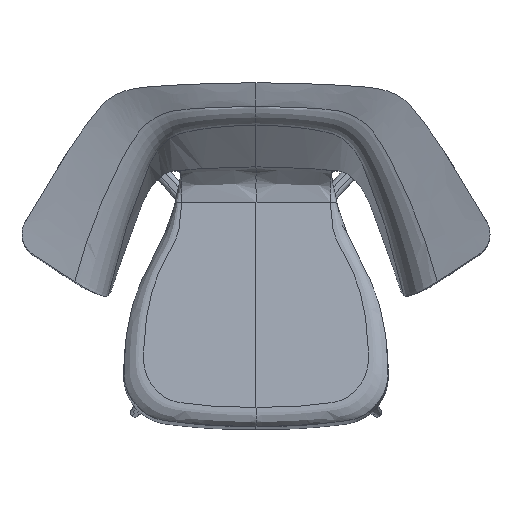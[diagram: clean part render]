
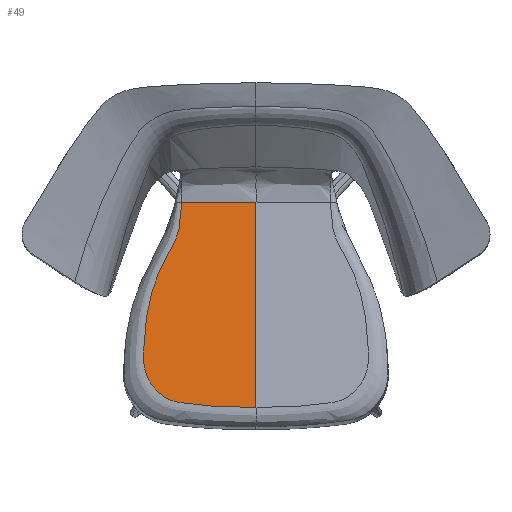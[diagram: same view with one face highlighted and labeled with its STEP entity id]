
A CAD part, top view. The second image highlights one B-rep face of the part: STEP entity #49.
In plain terms, the highlighted planar face has unit normal (0, 0.101, 0.995).
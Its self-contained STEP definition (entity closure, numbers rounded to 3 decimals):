
#49=ADVANCED_FACE('',(#241),#2789,.T.);
#241=FACE_OUTER_BOUND('',#433,.T.);
#433=EDGE_LOOP('',(#715,#716,#717));
#715=ORIENTED_EDGE('',*,*,#1607,.T.);
#716=ORIENTED_EDGE('',*,*,#1610,.F.);
#717=ORIENTED_EDGE('',*,*,#1606,.T.);
#1606=EDGE_CURVE('',#2522,#2529,#2093,.T.);
#1607=EDGE_CURVE('',#2529,#2530,#2094,.T.);
#1610=EDGE_CURVE('',#2522,#2530,#2023,.T.);
#2023=(
BOUNDED_CURVE()
B_SPLINE_CURVE(3,(#21086,#21087,#21088,#21089),.UNSPECIFIED.,.F.,.F.)
B_SPLINE_CURVE_WITH_KNOTS((4,4),(13.945,165.402),
 .UNSPECIFIED.)
CURVE()
GEOMETRIC_REPRESENTATION_ITEM()
RATIONAL_B_SPLINE_CURVE((1.,1.,1.,1.))
REPRESENTATION_ITEM('')
);
#2093=B_SPLINE_CURVE_WITH_KNOTS('',3,(#20973,#20974,#20975,#20976,#20977,
#20978,#20979,#20980,#20981,#20982,#20983,#20984,#20985,#20986,#20987,#20988,
#20989,#20990,#20991,#20992,#20993,#20994,#20995,#20996,#20997,#20998,#20999,
#21000,#21001,#21002,#21003,#21004,#21005,#21006,#21007,#21008,#21009,#21010,
#21011,#21012,#21013,#21014,#21015,#21016,#21017,#21018,#21019,#21020,#21021,
#21022,#21023,#21024,#21025,#21026,#21027,#21028,#21029,#21030,#21031,#21032,
#21033,#21034,#21035,#21036,#21037),.UNSPECIFIED.,.F.,.F.,(4,1,1,1,1,1,
1,1,1,1,1,1,1,1,1,1,1,1,1,1,1,1,1,1,1,1,1,1,1,1,1,1,1,1,1,1,1,1,1,1,1,1,
1,1,1,1,1,1,1,1,1,1,1,1,1,1,1,1,1,1,1,1,4),(-654.011,-651.192,
-648.373,-642.735,-631.459,-620.183,
-608.907,-597.631,-586.355,-575.079,
-563.803,-552.527,-541.251,-529.975,
-518.699,-507.423,-496.147,-484.87,-473.594,
-462.318,-451.042,-439.766,-428.49,
-417.214,-405.938,-394.662,-383.386,
-372.11,-360.834,-349.558,-338.282,
-327.006,-315.73,-304.454,-293.178,
-281.901,-270.625,-259.349,-248.073,-236.797,
-225.521,-214.245,-202.969,-191.693,
-180.417,-169.141,-157.865,-146.589,
-135.313,-124.037,-112.761,-101.485,
-90.208,-78.932,-67.656,-56.38,
-45.104,-33.828,-22.552,-11.276,
-5.638,-2.819,0.),.UNSPECIFIED.);
#2094=B_SPLINE_CURVE_WITH_KNOTS('',3,(#21038,#21039,#21040,#21041),
 .UNSPECIFIED.,.F.,.F.,(4,4),(36.762,457.349),
 .UNSPECIFIED.);
#2522=VERTEX_POINT('',#19187);
#2529=VERTEX_POINT('',#19194);
#2530=VERTEX_POINT('',#19195);
#2789=PLANE('',#3057);
#3057=AXIS2_PLACEMENT_3D('',#10140,#3114,$);
#3114=DIRECTION('',(0.,0.101,0.995));
#10140=CARTESIAN_POINT('',(207.531,463.095,363.537));
#19187=CARTESIAN_POINT('',(325.954,463.095,363.537));
#19194=CARTESIAN_POINT('',(477.411,44.642,405.815));
#19195=CARTESIAN_POINT('',(477.411,463.095,363.537));
#20973=CARTESIAN_POINT('',(325.954,463.095,363.537));
#20974=CARTESIAN_POINT('',(325.92,462.211,363.626));
#20975=CARTESIAN_POINT('',(325.85,460.44,363.805));
#20976=CARTESIAN_POINT('',(325.69,456.896,364.163));
#20977=CARTESIAN_POINT('',(325.366,450.711,364.788));
#20978=CARTESIAN_POINT('',(324.776,442.056,365.663));
#20979=CARTESIAN_POINT('',(323.794,431.312,366.748));
#20980=CARTESIAN_POINT('',(322.519,420.886,367.801));
#20981=CARTESIAN_POINT('',(320.826,410.488,368.852));
#20982=CARTESIAN_POINT('',(318.378,400.064,369.905));
#20983=CARTESIAN_POINT('',(314.945,390.09,370.913));
#20984=CARTESIAN_POINT('',(310.525,380.407,371.891));
#20985=CARTESIAN_POINT('',(305.64,371.166,372.825));
#20986=CARTESIAN_POINT('',(300.438,361.855,373.766));
#20987=CARTESIAN_POINT('',(295.209,352.674,374.693));
#20988=CARTESIAN_POINT('',(289.941,343.359,375.634));
#20989=CARTESIAN_POINT('',(284.958,334.002,376.58));
#20990=CARTESIAN_POINT('',(280.735,324.373,377.552));
#20991=CARTESIAN_POINT('',(276.779,314.529,378.547));
#20992=CARTESIAN_POINT('',(273.036,304.584,379.552));
#20993=CARTESIAN_POINT('',(269.591,294.527,380.568));
#20994=CARTESIAN_POINT('',(266.483,284.503,381.581));
#20995=CARTESIAN_POINT('',(263.636,274.314,382.61));
#20996=CARTESIAN_POINT('',(261.069,264.058,383.646));
#20997=CARTESIAN_POINT('',(258.757,253.699,384.693));
#20998=CARTESIAN_POINT('',(256.69,243.224,385.751));
#20999=CARTESIAN_POINT('',(254.89,232.844,386.8));
#21000=CARTESIAN_POINT('',(253.311,222.367,387.858));
#21001=CARTESIAN_POINT('',(251.957,211.883,388.918));
#21002=CARTESIAN_POINT('',(250.803,201.272,389.99));
#21003=CARTESIAN_POINT('',(249.874,190.906,391.037));
#21004=CARTESIAN_POINT('',(249.119,180.326,392.106));
#21005=CARTESIAN_POINT('',(248.548,169.752,393.174));
#21006=CARTESIAN_POINT('',(248.165,159.118,394.249));
#21007=CARTESIAN_POINT('',(247.896,148.514,395.32));
#21008=CARTESIAN_POINT('',(247.998,138.004,396.382));
#21009=CARTESIAN_POINT('',(249.43,127.378,397.456));
#21010=CARTESIAN_POINT('',(251.934,117.077,398.496));
#21011=CARTESIAN_POINT('',(255.506,107.193,399.495));
#21012=CARTESIAN_POINT('',(260.249,97.581,400.466));
#21013=CARTESIAN_POINT('',(265.901,88.777,401.356));
#21014=CARTESIAN_POINT('',(272.764,80.42,402.2));
#21015=CARTESIAN_POINT('',(280.314,73.197,402.93));
#21016=CARTESIAN_POINT('',(288.931,66.753,403.581));
#21017=CARTESIAN_POINT('',(298.211,61.524,404.109));
#21018=CARTESIAN_POINT('',(308.031,57.538,404.512));
#21019=CARTESIAN_POINT('',(318.394,54.883,404.78));
#21020=CARTESIAN_POINT('',(328.877,53.571,404.913));
#21021=CARTESIAN_POINT('',(339.475,52.115,405.06));
#21022=CARTESIAN_POINT('',(349.999,50.836,405.189));
#21023=CARTESIAN_POINT('',(360.526,49.647,405.309));
#21024=CARTESIAN_POINT('',(371.195,48.561,405.419));
#21025=CARTESIAN_POINT('',(381.789,47.597,405.516));
#21026=CARTESIAN_POINT('',(392.436,46.749,405.602));
#21027=CARTESIAN_POINT('',(402.897,46.027,405.675));
#21028=CARTESIAN_POINT('',(413.687,45.432,405.735));
#21029=CARTESIAN_POINT('',(424.156,44.892,405.789));
#21030=CARTESIAN_POINT('',(434.949,44.713,405.807));
#21031=CARTESIAN_POINT('',(445.505,44.685,405.81));
#21032=CARTESIAN_POINT('',(456.111,44.643,405.815));
#21033=CARTESIAN_POINT('',(464.973,44.633,405.816));
#21034=CARTESIAN_POINT('',(471.191,44.634,405.815));
#21035=CARTESIAN_POINT('',(474.746,44.638,405.815));
#21036=CARTESIAN_POINT('',(476.523,44.64,405.815));
#21037=CARTESIAN_POINT('',(477.411,44.642,405.815));
#21038=CARTESIAN_POINT('',(477.411,44.642,405.815));
#21039=CARTESIAN_POINT('',(477.411,184.126,391.722));
#21040=CARTESIAN_POINT('',(477.411,323.61,377.63));
#21041=CARTESIAN_POINT('',(477.411,463.095,363.537));
#21086=CARTESIAN_POINT('',(325.954,463.095,363.537));
#21087=CARTESIAN_POINT('',(376.439,463.095,363.537));
#21088=CARTESIAN_POINT('',(426.925,463.095,363.537));
#21089=CARTESIAN_POINT('',(477.411,463.095,363.537));
